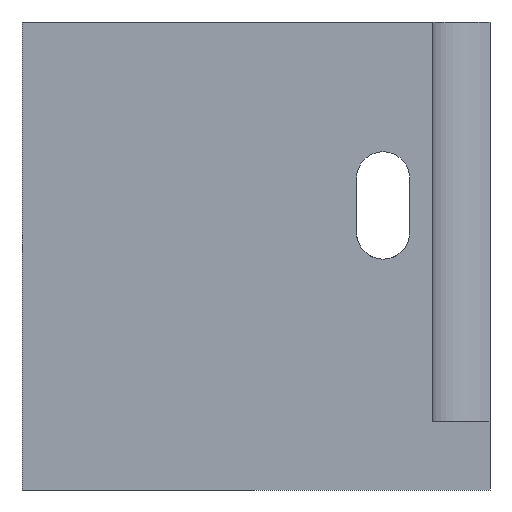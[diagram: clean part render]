
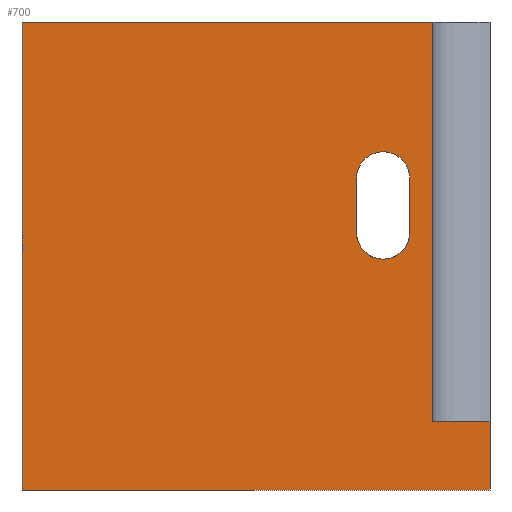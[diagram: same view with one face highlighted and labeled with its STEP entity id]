
A CAD part, front view. The second image highlights one B-rep face of the part: STEP entity #700.
In plain terms, the highlighted planar face has unit normal (0, -1, 0).
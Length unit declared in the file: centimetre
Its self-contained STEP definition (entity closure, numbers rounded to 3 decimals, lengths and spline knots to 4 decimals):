
#11 = DIRECTION ( 'NONE',  ( 0., 0., 1. ) ) ;
#37 = VERTEX_POINT ( 'NONE', #926 ) ;
#48 = DIRECTION ( 'NONE',  ( 1., 0., 0. ) ) ;
#49 = CARTESIAN_POINT ( 'NONE',  ( 0., 0., 1000. ) ) ;
#55 = CARTESIAN_POINT ( 'NONE',  ( 1000., 0., 0. ) ) ;
#58 = VECTOR ( 'NONE', #489, 100. ) ;
#77 = ORIENTED_EDGE ( 'NONE', *, *, #994, .F. ) ;
#83 = ORIENTED_EDGE ( 'NONE', *, *, #268, .T. ) ;
#104 = CARTESIAN_POINT ( 'NONE',  ( 0., 0., 0. ) ) ;
#108 = VECTOR ( 'NONE', #232, 100. ) ;
#114 = DIRECTION ( 'NONE',  ( 0., 0., 1. ) ) ;
#115 = ORIENTED_EDGE ( 'NONE', *, *, #882, .F. ) ;
#120 = DIRECTION ( 'NONE',  ( 0., 0., -1. ) ) ;
#127 = PLANE ( 'NONE',  #204 ) ;
#160 = LINE ( 'NONE', #674, #108 ) ;
#164 = ORIENTED_EDGE ( 'NONE', *, *, #438, .F. ) ;
#167 = EDGE_CURVE ( 'NONE', #1065, #832, #755, .T. ) ;
#179 = ORIENTED_EDGE ( 'NONE', *, *, #689, .F. ) ;
#195 = EDGE_LOOP ( 'NONE', ( #1072, #795, #353, #701, #83, #239 ) ) ;
#204 = AXIS2_PLACEMENT_3D ( 'NONE', #835, #1104, #114 ) ;
#209 = FACE_OUTER_BOUND ( 'NONE', #195, .T. ) ;
#220 = VERTEX_POINT ( 'NONE', #856 ) ;
#221 = CARTESIAN_POINT ( 'NONE',  ( 1000., 0., 1000. ) ) ;
#232 = DIRECTION ( 'NONE',  ( 1., 0., 0. ) ) ;
#233 = DIRECTION ( 'NONE',  ( 0., 0., -1. ) ) ;
#239 = ORIENTED_EDGE ( 'NONE', *, *, #167, .F. ) ;
#249 = CARTESIAN_POINT ( 'NONE',  ( 0., 0., 1000. ) ) ;
#267 = EDGE_CURVE ( 'NONE', #798, #955, #588, .T. ) ;
#268 = EDGE_CURVE ( 'NONE', #1024, #832, #160, .T. ) ;
#277 = VECTOR ( 'NONE', #48, 100. ) ;
#299 = LINE ( 'NONE', #655, #885 ) ;
#324 = DIRECTION ( 'NONE',  ( 0., 0., 1. ) ) ;
#353 = ORIENTED_EDGE ( 'NONE', *, *, #267, .F. ) ;
#389 = VECTOR ( 'NONE', #120, 100. ) ;
#438 = EDGE_CURVE ( 'NONE', #754, #899, #947, .T. ) ;
#469 = CARTESIAN_POINT ( 'NONE',  ( 0., 0., 146.3359 ) ) ;
#471 = CARTESIAN_POINT ( 'NONE',  ( 877.9009, 0., 146.3359 ) ) ;
#478 = CARTESIAN_POINT ( 'NONE',  ( 877.9009, 0., 1000. ) ) ;
#489 = DIRECTION ( 'NONE',  ( 0., 0., -1. ) ) ;
#513 = CARTESIAN_POINT ( 'NONE',  ( 771.6023, 0., 666.014 ) ) ;
#527 = AXIS2_PLACEMENT_3D ( 'NONE', #846, #595, #324 ) ;
#574 = FACE_BOUND ( 'NONE', #826, .T. ) ;
#588 = LINE ( 'NONE', #249, #277 ) ;
#595 = DIRECTION ( 'NONE',  ( 0., -1., 0. ) ) ;
#636 = CARTESIAN_POINT ( 'NONE',  ( 1000., 0., 146.3359 ) ) ;
#646 = LINE ( 'NONE', #654, #389 ) ;
#651 = AXIS2_PLACEMENT_3D ( 'NONE', #513, #895, #980 ) ;
#654 = CARTESIAN_POINT ( 'NONE',  ( 714.8409, 0., 550.0552 ) ) ;
#655 = CARTESIAN_POINT ( 'NONE',  ( 0., 0., 1000. ) ) ;
#668 = DIRECTION ( 'NONE',  ( 0., 0., 1. ) ) ;
#674 = CARTESIAN_POINT ( 'NONE',  ( 0., 0., 0. ) ) ;
#681 = LINE ( 'NONE', #471, #889 ) ;
#687 = CARTESIAN_POINT ( 'NONE',  ( 828.3636, 0., 666.014 ) ) ;
#689 = EDGE_CURVE ( 'NONE', #899, #220, #646, .T. ) ;
#700 = ADVANCED_FACE ( 'NONE', ( #574, #209 ), #127, .F. ) ;
#701 = ORIENTED_EDGE ( 'NONE', *, *, #735, .T. ) ;
#720 = EDGE_CURVE ( 'NONE', #805, #1065, #738, .T. ) ;
#735 = EDGE_CURVE ( 'NONE', #798, #1024, #299, .T. ) ;
#738 = LINE ( 'NONE', #469, #785 ) ;
#754 = VERTEX_POINT ( 'NONE', #1133 ) ;
#755 = LINE ( 'NONE', #221, #58 ) ;
#769 = CARTESIAN_POINT ( 'NONE',  ( 877.9009, 0., 146.3359 ) ) ;
#785 = VECTOR ( 'NONE', #1108, 100. ) ;
#795 = ORIENTED_EDGE ( 'NONE', *, *, #836, .T. ) ;
#798 = VERTEX_POINT ( 'NONE', #49 ) ;
#805 = VERTEX_POINT ( 'NONE', #769 ) ;
#814 = VERTEX_POINT ( 'NONE', #1143 ) ;
#826 = EDGE_LOOP ( 'NONE', ( #77, #115, #937, #179, #164 ) ) ;
#832 = VERTEX_POINT ( 'NONE', #55 ) ;
#835 = CARTESIAN_POINT ( 'NONE',  ( 0., 0., 1000. ) ) ;
#836 = EDGE_CURVE ( 'NONE', #805, #955, #681, .T. ) ;
#846 = CARTESIAN_POINT ( 'NONE',  ( 771.6023, 0., 550.0552 ) ) ;
#856 = CARTESIAN_POINT ( 'NONE',  ( 714.8409, 0., 550.0552 ) ) ;
#859 = LINE ( 'NONE', #687, #905 ) ;
#882 = EDGE_CURVE ( 'NONE', #814, #37, #948, .T. ) ;
#885 = VECTOR ( 'NONE', #233, 100. ) ;
#889 = VECTOR ( 'NONE', #1051, 100. ) ;
#895 = DIRECTION ( 'NONE',  ( 0., -1., 0. ) ) ;
#899 = VERTEX_POINT ( 'NONE', #964 ) ;
#905 = VECTOR ( 'NONE', #668, 100. ) ;
#914 = DIRECTION ( 'NONE',  ( 0., -1., 0. ) ) ;
#926 = CARTESIAN_POINT ( 'NONE',  ( 828.3636, 0., 550.0552 ) ) ;
#937 = ORIENTED_EDGE ( 'NONE', *, *, #1083, .F. ) ;
#947 = CIRCLE ( 'NONE', #651, 56.7614 ) ;
#948 = CIRCLE ( 'NONE', #527, 56.7614 ) ;
#955 = VERTEX_POINT ( 'NONE', #478 ) ;
#964 = CARTESIAN_POINT ( 'NONE',  ( 714.8409, 0., 666.014 ) ) ;
#980 = DIRECTION ( 'NONE',  ( 0., 0., 1. ) ) ;
#994 = EDGE_CURVE ( 'NONE', #37, #754, #859, .T. ) ;
#1002 = CIRCLE ( 'NONE', #1061, 56.7614 ) ;
#1024 = VERTEX_POINT ( 'NONE', #104 ) ;
#1051 = DIRECTION ( 'NONE',  ( 0., 0., 1. ) ) ;
#1061 = AXIS2_PLACEMENT_3D ( 'NONE', #1164, #914, #11 ) ;
#1065 = VERTEX_POINT ( 'NONE', #636 ) ;
#1072 = ORIENTED_EDGE ( 'NONE', *, *, #720, .F. ) ;
#1083 = EDGE_CURVE ( 'NONE', #220, #814, #1002, .T. ) ;
#1104 = DIRECTION ( 'NONE',  ( 0., 1., 0. ) ) ;
#1108 = DIRECTION ( 'NONE',  ( 1., 0., 0. ) ) ;
#1133 = CARTESIAN_POINT ( 'NONE',  ( 828.3636, 0., 666.014 ) ) ;
#1143 = CARTESIAN_POINT ( 'NONE',  ( 771.6023, 0., 493.2939 ) ) ;
#1164 = CARTESIAN_POINT ( 'NONE',  ( 771.6023, 0., 550.0552 ) ) ;
